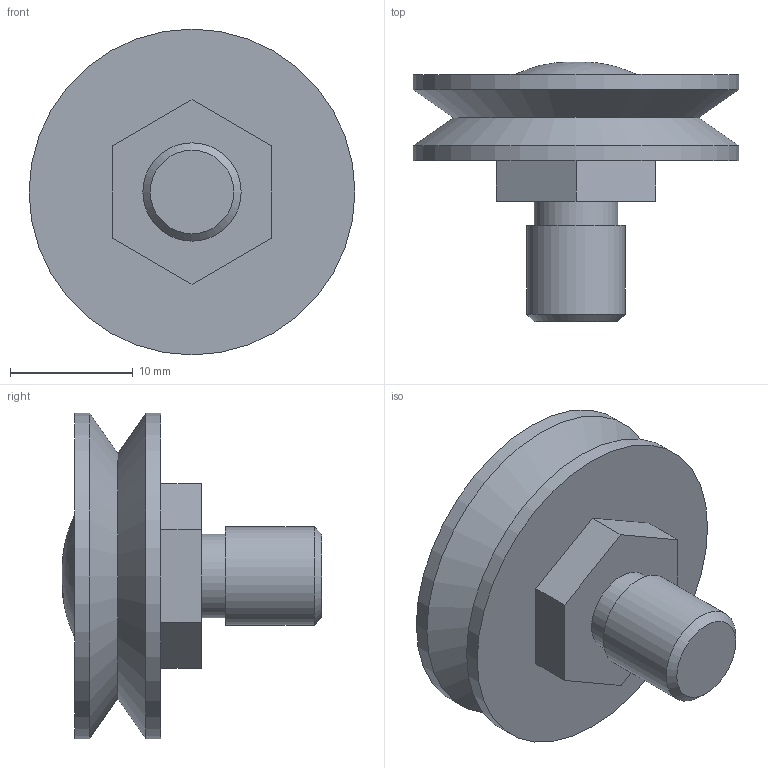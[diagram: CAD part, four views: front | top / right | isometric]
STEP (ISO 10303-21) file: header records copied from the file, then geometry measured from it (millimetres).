
FILE_DESCRIPTION( ( 'STEP AP203' ), '1' );
FILE_NAME( 'p:/temp/worker_54/temp/exporttempdir_2348_151_n7Npp/format_0/GBHJ265C.stp', '2021-09-29T06:42:35', ( 'License CC BY-ND 4.0' ), ( 'CADENAS' ), ' ', 'PARTsolutions', ' ' );
FILE_SCHEMA( ( 'CONFIG_CONTROL_DESIGN' ) );
Length unit declared in the file: millimetre
Products named in the file (2): GBHJ265C; _BHJ265C_C
Assembly tree (1 placements, depth 2):
  GBHJ265C
    _BHJ265C_C
Bounding box: 26.5 x 21.12 x 26.5 mm (x, y, z)
Volume: 4279.9 mm3; surface area: 2297.2 mm2
Topology: 1 solids, 1 shells, 19 faces, 39 edges, 25 vertices
Faces by surface type: plane 11, cylinder 4, cone 3, bspline 1
Full cylindrical faces by diameter (mm): 6.773 x1, 8 x1, 26.5 x2
Entity records: 548 total; most frequent: CARTESIAN_POINT 101, DIRECTION 80, ORIENTED_EDGE 58, AXIS2_PLACEMENT_3D 31, EDGE_LOOP 30, EDGE_CURVE 29, VERTEX_POINT 24, FACE_OUTER_BOUND 23
